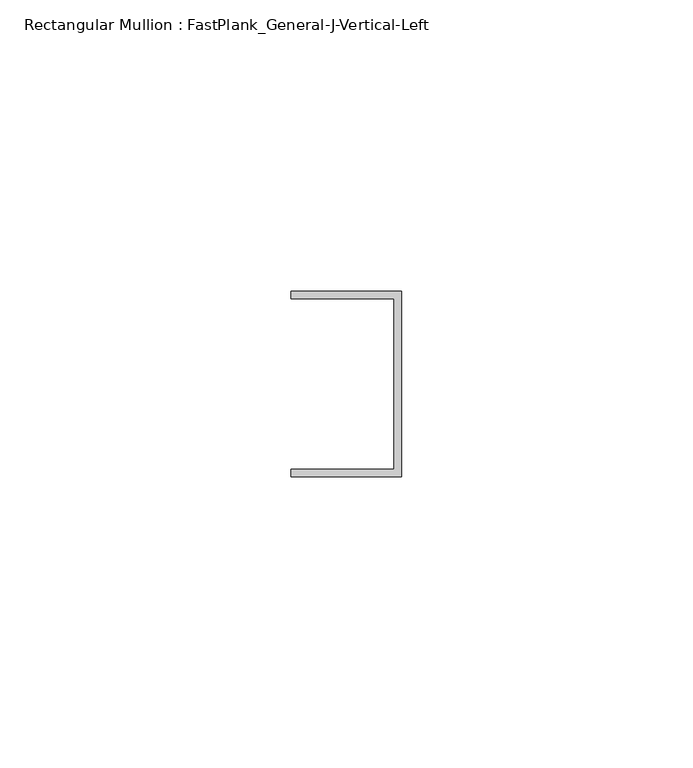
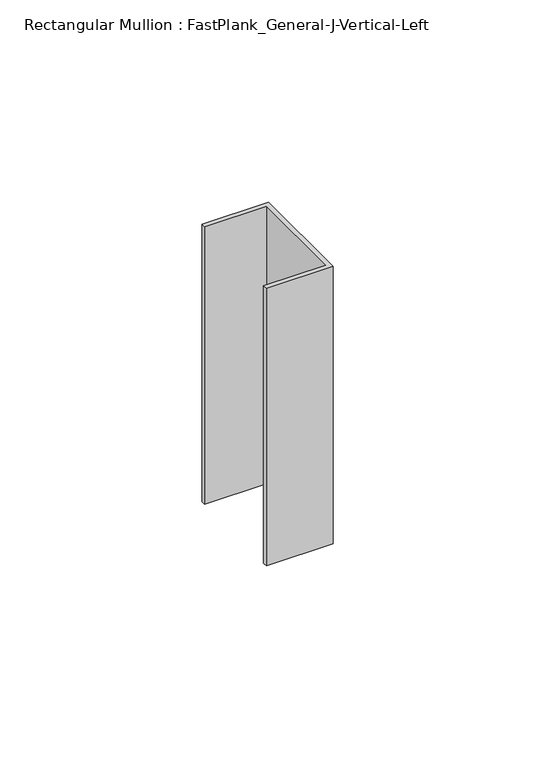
"""IFC4 building model written with IfcOpenShell, lengths in millimetres: member geometry, Rectangular Mullion : FastPlank_General-J-Vertical-Left."""

from ifc_helpers import new_model, si_unit, frame, origin, place, context, project, spatial, polyline, outline, extrude, source, transform, mapped, element, save


def rectangular_mullion_fastplank_general_j_vertical_left_7844d5d4(model_context):
    return source(origin(), model_context, "Body", "SweptSolid", [
        extrude(outline(polyline([(0.0, 10.2620691), (0.0, -21.6412691), (-19.05, -21.6412691), (-19.05, -20.3412717), (-1.3000189, -20.3412717), (-1.3000189, 8.9620717), (-19.05, 8.9620717), (-19.05, 10.2620691), (0.0, 10.2620691)])), frame((0.0, 0.0, -83.8500189), z_axis=(0.0, 0.0, 1.0), x_axis=(1.0, 0.0, 0.0)), (0.0, 0.0, 1.0), 83.8500189),
    ])


if __name__ == "__main__":
    model = new_model("IFC4")
    model_context = context("Model", 3, world=origin())
    ifc_project = project(units=[si_unit("LENGTHUNIT", "METRE", prefix="MILLI")], contexts=[model_context])
    site = spatial("IfcSite", under=ifc_project)
    building = spatial("IfcBuilding", under=site)
    placement = place(None, origin())
    rectangular_mullion_fastplank_general_j_vertical_left_shape = rectangular_mullion_fastplank_general_j_vertical_left_7844d5d4(model_context)
    element("IfcMember", 1, ObjectType="Rectangular Mullion : FastPlank_General-J-Vertical-Left", at=placement, inside=building, context=model_context, shape_type="MappedRepresentation", body=[
        mapped(rectangular_mullion_fastplank_general_j_vertical_left_shape, transform((0.0, 0.0, 0.0), x_axis=(1.0, 0.0, 0.0), y_axis=(0.0, 1.0, 0.0), z_axis=(0.0, 0.0, 1.0))),
    ])
    save(model, "model.ifc")
